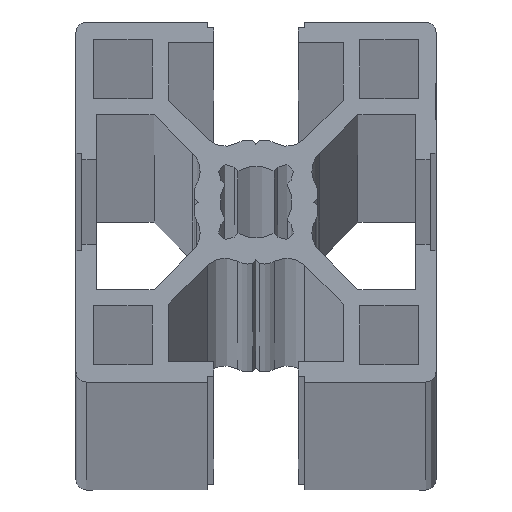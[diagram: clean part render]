
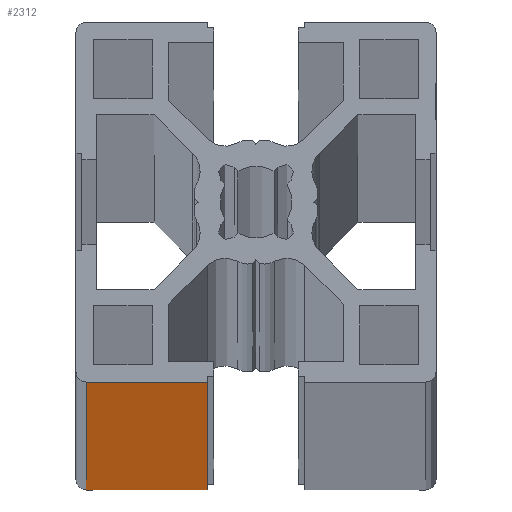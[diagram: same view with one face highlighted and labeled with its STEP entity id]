
A CAD part, top view. The second image highlights one B-rep face of the part: STEP entity #2312.
In plain terms, the highlighted planar face has unit normal (0, -1, 0).
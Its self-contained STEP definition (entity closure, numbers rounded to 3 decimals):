
#409 = PLANE ( 'NONE',  #6955 ) ;
#427 = VECTOR ( 'NONE', #730, 1000. ) ;
#730 = DIRECTION ( 'NONE',  ( 0., 0., 1. ) ) ;
#1576 = VERTEX_POINT ( 'NONE', #6060 ) ;
#1653 = EDGE_CURVE ( 'NONE', #1576, #4620, #8386, .T. ) ;
#1753 = VERTEX_POINT ( 'NONE', #1917 ) ;
#1917 = CARTESIAN_POINT ( 'NONE',  ( 152.725, 274.061, 0. ) ) ;
#2016 = CARTESIAN_POINT ( 'NONE',  ( 164.488, 274.061, -6000. ) ) ;
#2209 = LINE ( 'NONE', #7966, #427 ) ;
#2312 = ADVANCED_FACE ( 'NONE', ( #4486 ), #409, .T. ) ;
#2732 = CARTESIAN_POINT ( 'NONE',  ( 164.488, 274.061, 0. ) ) ;
#3225 = VECTOR ( 'NONE', #8504, 1000. ) ;
#3779 = DIRECTION ( 'NONE',  ( 0., 0., 1. ) ) ;
#3892 = CARTESIAN_POINT ( 'NONE',  ( 152.725, 274.061, -6000. ) ) ;
#3939 = CARTESIAN_POINT ( 'NONE',  ( 164.488, 274.061, 0. ) ) ;
#3954 = CARTESIAN_POINT ( 'NONE',  ( 164.488, 274.061, -6000. ) ) ;
#3956 = ORIENTED_EDGE ( 'NONE', *, *, #1653, .T. ) ;
#3963 = VECTOR ( 'NONE', #7320, 1000. ) ;
#3982 = EDGE_CURVE ( 'NONE', #5648, #1576, #5690, .T. ) ;
#4020 = EDGE_CURVE ( 'NONE', #5648, #1753, #2209, .T. ) ;
#4141 = ORIENTED_EDGE ( 'NONE', *, *, #3982, .T. ) ;
#4335 = ORIENTED_EDGE ( 'NONE', *, *, #4020, .F. ) ;
#4486 = FACE_OUTER_BOUND ( 'NONE', #8455, .T. ) ;
#4502 = ORIENTED_EDGE ( 'NONE', *, *, #6217, .F. ) ;
#4620 = VERTEX_POINT ( 'NONE', #2732 ) ;
#4872 = VECTOR ( 'NONE', #3779, 1000. ) ;
#5648 = VERTEX_POINT ( 'NONE', #3892 ) ;
#5690 = LINE ( 'NONE', #2016, #3963 ) ;
#6060 = CARTESIAN_POINT ( 'NONE',  ( 164.488, 274.061, -6000. ) ) ;
#6217 = EDGE_CURVE ( 'NONE', #1753, #4620, #6719, .T. ) ;
#6719 = LINE ( 'NONE', #3939, #3225 ) ;
#6955 = AXIS2_PLACEMENT_3D ( 'NONE', #8535, #8315, #8291 ) ;
#7320 = DIRECTION ( 'NONE',  ( 1., 0., 0. ) ) ;
#7966 = CARTESIAN_POINT ( 'NONE',  ( 152.725, 274.061, -6000. ) ) ;
#8291 = DIRECTION ( 'NONE',  ( 1., 0., 0. ) ) ;
#8315 = DIRECTION ( 'NONE',  ( 0., -1., 0. ) ) ;
#8386 = LINE ( 'NONE', #3954, #4872 ) ;
#8455 = EDGE_LOOP ( 'NONE', ( #4502, #4335, #4141, #3956 ) ) ;
#8504 = DIRECTION ( 'NONE',  ( 1., 0., 0. ) ) ;
#8535 = CARTESIAN_POINT ( 'NONE',  ( 164.488, 274.061, -6000. ) ) ;
